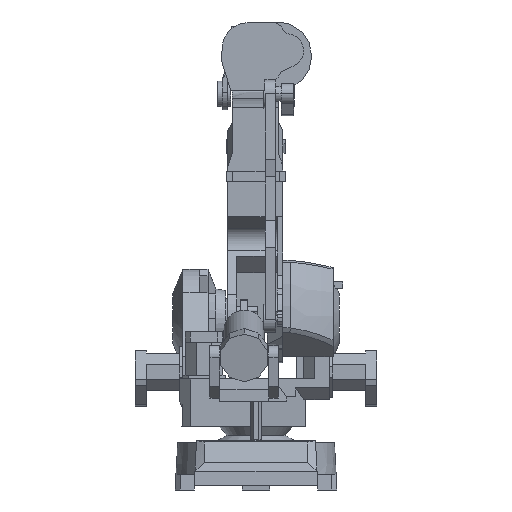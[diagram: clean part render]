
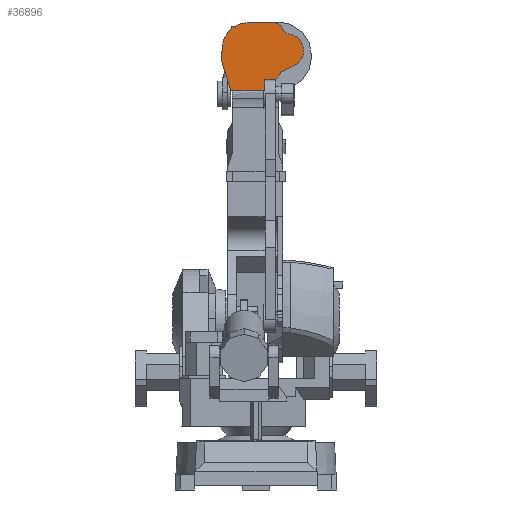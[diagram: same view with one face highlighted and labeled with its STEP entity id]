
A CAD part, left-side view. The second image highlights one B-rep face of the part: STEP entity #36896.
In plain terms, the highlighted planar face has unit normal (-1, 0, 0).
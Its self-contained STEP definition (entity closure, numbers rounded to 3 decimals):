
#32785 = ORIENTED_EDGE ( 'NONE', *, *, #33597, .T. ) ;
#33039 = EDGE_CURVE ( 'NONE', #31148, #33600, #24900, .T. ) ;
#33576 = LINE ( 'NONE', #33577, #33578 ) ;
#33577 = CARTESIAN_POINT ( 'NONE',  ( -254., -77.038, 1851.8 ) ) ;
#33578 = VECTOR ( 'NONE', #33579, 1000. ) ;
#33579 = DIRECTION ( 'NONE',  ( 0., 1., 0. ) ) ;
#33597 = EDGE_CURVE ( 'NONE', #31325, #34185, #25684, .T. ) ;
#33600 = VERTEX_POINT ( 'NONE', #25721 ) ;
#34185 = VERTEX_POINT ( 'NONE', #26766 ) ;
#17972 = ORIENTED_EDGE ( 'NONE', *, *, #18683, .T. ) ;
#1724 = LINE ( 'NONE', #1767, #1768 ) ;
#1767 = CARTESIAN_POINT ( 'NONE',  ( -254., -77.048, 1625.8 ) ) ;
#1768 = VECTOR ( 'NONE', #1769, 1000. ) ;
#1769 = DIRECTION ( 'NONE',  ( 0., -0.779, 0.627 ) ) ;
#34778 = ORIENTED_EDGE ( 'NONE', *, *, #35594, .T. ) ;
#34808 = CARTESIAN_POINT ( 'NONE',  ( -254., 31.185, 1851.8 ) ) ;
#18683 = EDGE_CURVE ( 'NONE', #46365, #19229, #6166, .T. ) ;
#35360 = ORIENTED_EDGE ( 'NONE', *, *, #36185, .T. ) ;
#35594 = EDGE_CURVE ( 'NONE', #33600, #36189, #29152, .T. ) ;
#19229 = VERTEX_POINT ( 'NONE', #6784 ) ;
#3121 = CARTESIAN_POINT ( 'NONE',  ( -254., -88.03, 1634.638 ) ) ;
#36185 = EDGE_CURVE ( 'NONE', #34185, #40370, #30167, .T. ) ;
#36189 = VERTEX_POINT ( 'NONE', #30198 ) ;
#36367 = LINE ( 'NONE', #36368, #36369 ) ;
#36368 = CARTESIAN_POINT ( 'NONE',  ( -254., -35., 1583.8 ) ) ;
#36369 = VECTOR ( 'NONE', #36370, 1000. ) ;
#36370 = DIRECTION ( 'NONE',  ( 0., 0., 1. ) ) ;
#20304 = ORIENTED_EDGE ( 'NONE', *, *, #21062, .T. ) ;
#36896 = ADVANCED_FACE ( 'NONE', ( #31395 ), #31396, .T. ) ;
#20792 = LINE ( 'NONE', #20793, #20794 ) ;
#20793 = CARTESIAN_POINT ( 'NONE',  ( -254., -127.646, 1807.599 ) ) ;
#20794 = VECTOR ( 'NONE', #20795, 1000. ) ;
#20795 = DIRECTION ( 'NONE',  ( 0., 0.853, 0.522 ) ) ;
#37389 = ORIENTED_EDGE ( 'NONE', *, *, #38239, .T. ) ;
#21056 = LINE ( 'NONE', #21057, #21058 ) ;
#21057 = CARTESIAN_POINT ( 'NONE',  ( -254., 134., 1754.8 ) ) ;
#21058 = VECTOR ( 'NONE', #21059, 1000. ) ;
#21059 = DIRECTION ( 'NONE',  ( 0., 0.058, -0.998 ) ) ;
#21062 = EDGE_CURVE ( 'NONE', #19229, #21618, #8852, .T. ) ;
#37523 = CARTESIAN_POINT ( 'NONE',  ( -254., -35., 1583.8 ) ) ;
#37630 = EDGE_LOOP ( 'NONE', ( #38884, #42124, #44861, #17972, #20304, #22711, #25140, #27553, #32241, #34778, #37389, #40060, #29988, #32785, #35360 ) ) ;
#21618 = VERTEX_POINT ( 'NONE', #9475 ) ;
#21696 = CARTESIAN_POINT ( 'NONE',  ( -254., -112.172, 1817.057 ) ) ;
#38239 = EDGE_CURVE ( 'NONE', #36189, #38846, #33576, .T. ) ;
#38459 = CARTESIAN_POINT ( 'NONE',  ( -254., -35., 1625.8 ) ) ;
#38665 = CIRCLE ( 'NONE', #38666, 102.989 ) ;
#38666 = AXIS2_PLACEMENT_3D ( 'NONE', #38667, #38668, #38669 ) ;
#38667 = CARTESIAN_POINT ( 'NONE',  ( -254., 31.185, 1748.811 ) ) ;
#38668 = DIRECTION ( 'NONE',  ( -1., 0., 0. ) ) ;
#38669 = DIRECTION ( 'NONE',  ( 0., 0., 1. ) ) ;
#38846 = VERTEX_POINT ( 'NONE', #34808 ) ;
#38884 = ORIENTED_EDGE ( 'NONE', *, *, #39739, .T. ) ;
#6166 = LINE ( 'NONE', #6167, #6168 ) ;
#6167 = CARTESIAN_POINT ( 'NONE',  ( -254., -88.03, 1634.638 ) ) ;
#6168 = VECTOR ( 'NONE', #6169, 1000. ) ;
#6169 = DIRECTION ( 'NONE',  ( 0., -0.214, 0.977 ) ) ;
#22621 = CARTESIAN_POINT ( 'NONE',  ( -254., 137., 1703.3 ) ) ;
#22711 = ORIENTED_EDGE ( 'NONE', *, *, #23480, .T. ) ;
#6784 = CARTESIAN_POINT ( 'NONE',  ( -254., -89.537, 1641.524 ) ) ;
#39739 = EDGE_CURVE ( 'NONE', #40370, #40873, #36367, .T. ) ;
#23480 = EDGE_CURVE ( 'NONE', #21618, #24029, #11250, .T. ) ;
#40030 = CARTESIAN_POINT ( 'NONE',  ( -254., 134., 1754.8 ) ) ;
#40060 = ORIENTED_EDGE ( 'NONE', *, *, #40947, .T. ) ;
#40370 = VERTEX_POINT ( 'NONE', #37523 ) ;
#24029 = VERTEX_POINT ( 'NONE', #11777 ) ;
#40873 = VERTEX_POINT ( 'NONE', #38459 ) ;
#40947 = EDGE_CURVE ( 'NONE', #38846, #41577, #38665, .T. ) ;
#24900 = LINE ( 'NONE', #24901, #24902 ) ;
#24901 = CARTESIAN_POINT ( 'NONE',  ( -254., -112.172, 1817.057 ) ) ;
#24902 = VECTOR ( 'NONE', #24903, 1000. ) ;
#24903 = DIRECTION ( 'NONE',  ( 0., 0.524, 0.852 ) ) ;
#25140 = ORIENTED_EDGE ( 'NONE', *, *, #25926, .T. ) ;
#41577 = VERTEX_POINT ( 'NONE', #40030 ) ;
#8852 = LINE ( 'NONE', #8853, #8854 ) ;
#8853 = CARTESIAN_POINT ( 'NONE',  ( -254., -89.537, 1641.524 ) ) ;
#8854 = VECTOR ( 'NONE', #8855, 1000. ) ;
#8855 = DIRECTION ( 'NONE',  ( 0., -0.559, 0.829 ) ) ;
#25684 = LINE ( 'NONE', #25718, #25719 ) ;
#25718 = CARTESIAN_POINT ( 'NONE',  ( -254., 137., 1703.3 ) ) ;
#25719 = VECTOR ( 'NONE', #25720, 1000. ) ;
#25720 = DIRECTION ( 'NONE',  ( 0., -0.296, -0.955 ) ) ;
#25721 = CARTESIAN_POINT ( 'NONE',  ( -254., -98.003, 1840.085 ) ) ;
#42124 = ORIENTED_EDGE ( 'NONE', *, *, #43000, .T. ) ;
#9475 = CARTESIAN_POINT ( 'NONE',  ( -254., -100.885, 1658.349 ) ) ;
#25926 = EDGE_CURVE ( 'NONE', #24029, #26458, #14298, .T. ) ;
#42732 = LINE ( 'NONE', #42733, #42734 ) ;
#42733 = CARTESIAN_POINT ( 'NONE',  ( -254., -35., 1625.8 ) ) ;
#42734 = VECTOR ( 'NONE', #42735, 1000. ) ;
#42735 = DIRECTION ( 'NONE',  ( 0., -1., 0. ) ) ;
#26458 = VERTEX_POINT ( 'NONE', #15027 ) ;
#43000 = EDGE_CURVE ( 'NONE', #40873, #43625, #42732, .T. ) ;
#26766 = CARTESIAN_POINT ( 'NONE',  ( -254., 100., 1583.8 ) ) ;
#43625 = VERTEX_POINT ( 'NONE', #44027 ) ;
#27553 = ORIENTED_EDGE ( 'NONE', *, *, #30596, .T. ) ;
#11250 = LINE ( 'NONE', #11251, #11252 ) ;
#11251 = CARTESIAN_POINT ( 'NONE',  ( -254., -100.885, 1658.349 ) ) ;
#11252 = VECTOR ( 'NONE', #11253, 1000. ) ;
#11253 = DIRECTION ( 'NONE',  ( 0., -0.902, 0.431 ) ) ;
#44027 = CARTESIAN_POINT ( 'NONE',  ( -254., -77.048, 1625.8 ) ) ;
#11777 = CARTESIAN_POINT ( 'NONE',  ( -254., -150.931, 1682.237 ) ) ;
#44861 = ORIENTED_EDGE ( 'NONE', *, *, #45732, .T. ) ;
#29152 = LINE ( 'NONE', #29153, #29154 ) ;
#29153 = CARTESIAN_POINT ( 'NONE',  ( -254., -98.003, 1840.085 ) ) ;
#29154 = VECTOR ( 'NONE', #29155, 1000. ) ;
#29155 = DIRECTION ( 'NONE',  ( 0., 0.873, 0.488 ) ) ;
#45732 = EDGE_CURVE ( 'NONE', #43625, #46365, #1724, .T. ) ;
#46365 = VERTEX_POINT ( 'NONE', #3121 ) ;
#29988 = ORIENTED_EDGE ( 'NONE', *, *, #30779, .T. ) ;
#30167 = LINE ( 'NONE', #30168, #30196 ) ;
#30168 = CARTESIAN_POINT ( 'NONE',  ( -254., 100., 1583.8 ) ) ;
#30196 = VECTOR ( 'NONE', #30197, 1000. ) ;
#30197 = DIRECTION ( 'NONE',  ( 0., -1., 0. ) ) ;
#30198 = CARTESIAN_POINT ( 'NONE',  ( -254., -77.038, 1851.8 ) ) ;
#30596 = EDGE_CURVE ( 'NONE', #26458, #31148, #20792, .T. ) ;
#14298 = CIRCLE ( 'NONE', #14299, 66. ) ;
#14299 = AXIS2_PLACEMENT_3D ( 'NONE', #14300, #14301, #14302 ) ;
#14300 = CARTESIAN_POINT ( 'NONE',  ( -254., -122.5, 1741.8 ) ) ;
#14301 = DIRECTION ( 'NONE',  ( -1., 0., 0. ) ) ;
#14302 = DIRECTION ( 'NONE',  ( 0., 0., 1. ) ) ;
#30779 = EDGE_CURVE ( 'NONE', #41577, #31325, #21056, .T. ) ;
#31148 = VERTEX_POINT ( 'NONE', #21696 ) ;
#31325 = VERTEX_POINT ( 'NONE', #22621 ) ;
#31395 = FACE_OUTER_BOUND ( 'NONE', #37630, .T. ) ;
#31396 = PLANE ( 'NONE',  #31397 ) ;
#31397 = AXIS2_PLACEMENT_3D ( 'NONE', #31398, #31399, #31400 ) ;
#31398 = CARTESIAN_POINT ( 'NONE',  ( -254., -122.5, 1741.8 ) ) ;
#31399 = DIRECTION ( 'NONE',  ( -1., 0., 0. ) ) ;
#31400 = DIRECTION ( 'NONE',  ( 0., 0., 1. ) ) ;
#15027 = CARTESIAN_POINT ( 'NONE',  ( -254., -127.646, 1807.599 ) ) ;
#32241 = ORIENTED_EDGE ( 'NONE', *, *, #33039, .T. ) ;
